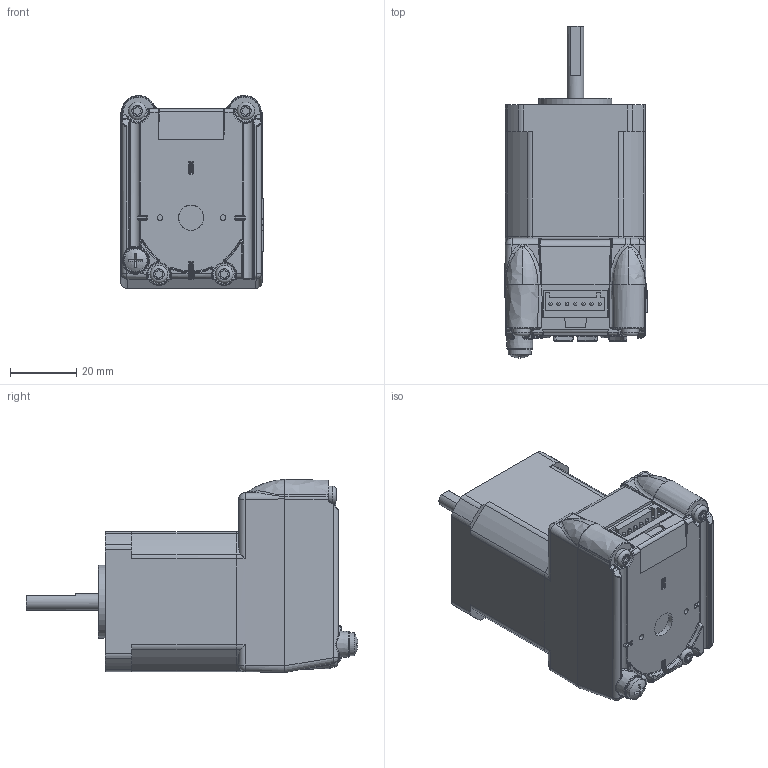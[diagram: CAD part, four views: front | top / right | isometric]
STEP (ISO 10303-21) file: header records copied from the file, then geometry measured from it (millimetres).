
FILE_DESCRIPTION(('MDrive17Plus_Std_Motor_Triple.stp'),'1');
FILE_NAME('T:/Kubotek Models For Design Assemblies/3D Step File Models Posted on-line/MDrive17 Plus Motors/MDrive17Plus_Std_Motor_Triple.stp', '2016-05-25T19:28:23',('P. Bordua, 05/25/16'), ('Schneider Electric Motion USA'), 'KCM Version 1.1.1406.0', 'Kubotek KeyCreator', 'Kubotek KeyCreator');
FILE_SCHEMA(('AUTOMOTIVE_DESIGN'));
Length unit declared in the file: inch
Bounding box: 43.15 x 100.31 x 58.35 mm (x, y, z)
Volume: 136364.6 mm3; surface area: 18676.5 mm2
Topology: 1 solids, 20 shells, 917 faces, 2328 edges, 1449 vertices
Faces by surface type: plane 325, cylinder 271, bspline 220, cone 40, torus 35, sphere 26
Full cylindrical faces by diameter (mm): 1.041 x7, 2.5 x4, 4.999 x1, 5.385 x4, 6.858 x1, 7.315 x2, 7.62 x1, 9.525 x1, 21.996 x1
Entity records: 55110 total; most frequent: CARTESIAN_POINT 32427, ORIENTED_EDGE 4642, DIRECTION 3884, EDGE_CURVE 2309, AXIS2_PLACEMENT_3D 1471, VERTEX_POINT 1449, EDGE_LOOP 960, VECTOR 942
